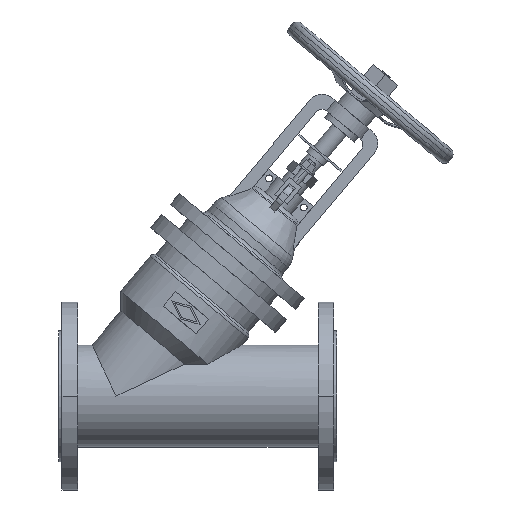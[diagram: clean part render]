
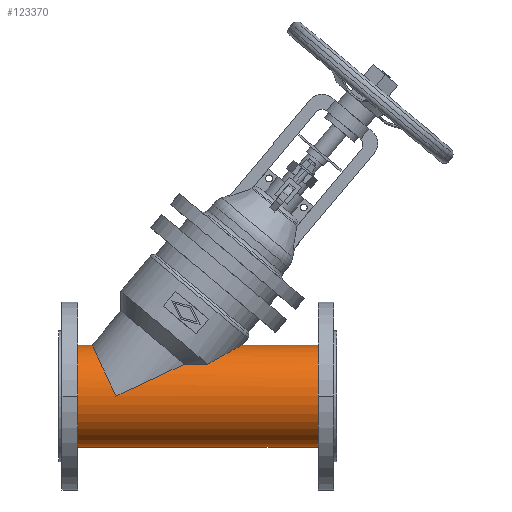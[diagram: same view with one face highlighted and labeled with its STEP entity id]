
A CAD part, top view. The second image highlights one B-rep face of the part: STEP entity #123370.
In plain terms, the highlighted cylindrical face has radius 73.5 mm (diameter 147 mm), a partial arc.
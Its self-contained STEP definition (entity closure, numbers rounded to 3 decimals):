
#2470=CARTESIAN_POINT('',(214.197,45.8,
57.485));
#2480=CARTESIAN_POINT('',(217.487,47.768,
55.918));
#2490=CARTESIAN_POINT('',(220.721,49.666,
54.24));
#2500=CARTESIAN_POINT('',(227.158,53.391,
50.585));
#2510=CARTESIAN_POINT('',(230.353,55.21,
48.596));
#2520=CARTESIAN_POINT('',(237.137,59.031,
43.915));
#2530=CARTESIAN_POINT('',(240.911,61.127,
40.991));
#2540=CARTESIAN_POINT('',(246.248,64.058,
36.089));
#2550=CARTESIAN_POINT('',(247.973,65.001,
34.369));
#2560=CARTESIAN_POINT('',(251.249,66.782,
30.764));
#2570=CARTESIAN_POINT('',(252.799,67.621,
28.88));
#2580=CARTESIAN_POINT('',(257.095,69.938,
22.993));
#2590=CARTESIAN_POINT('',(259.482,71.215,
18.755));
#2600=CARTESIAN_POINT('',(262.82,72.995,
9.749));
#2610=CARTESIAN_POINT('',(263.771,73.5,4.982));
#2620=CARTESIAN_POINT('',(263.771,73.5,-4.982));
#2630=CARTESIAN_POINT('',(262.82,72.995,
-9.749));
#2640=CARTESIAN_POINT('',(259.482,71.215,
-18.755));
#2650=CARTESIAN_POINT('',(257.095,69.938,
-22.993));
#2660=CARTESIAN_POINT('',(252.799,67.621,
-28.88));
#2670=CARTESIAN_POINT('',(251.249,66.782,
-30.764));
#2680=CARTESIAN_POINT('',(247.973,65.001,
-34.369));
#2690=CARTESIAN_POINT('',(246.248,64.058,
-36.089));
#2700=CARTESIAN_POINT('',(240.911,61.127,
-40.991));
#2710=CARTESIAN_POINT('',(237.137,59.031,
-43.915));
#2720=CARTESIAN_POINT('',(230.353,55.21,
-48.596));
#2730=CARTESIAN_POINT('',(227.158,53.391,
-50.585));
#2740=CARTESIAN_POINT('',(220.721,49.666,
-54.24));
#2750=CARTESIAN_POINT('',(217.487,47.768,
-55.918));
#2760=CARTESIAN_POINT('',(214.197,45.8,
-57.485));
#2770=B_SPLINE_CURVE_WITH_KNOTS('',3,(#2470,#2480,#2490,#2500,#2510,
#2520,#2530,#2540,#2550,#2560,#2570,#2580,#2590,#2600,#2610,#2620,#2630,
#2640,#2650,#2660,#2670,#2680,#2690,#2700,#2710,#2720,#2730,#2740,#2750,
#2760),.UNSPECIFIED.,.F.,.F.,(4,2,2,2,2,2,2,2,2,2,2,2,2,2,4),(
305.663,317.453,329.764,344.709,
352.181,359.653,374.598,389.542,
404.487,419.431,426.904,434.376,
449.32,461.632,473.421),.UNSPECIFIED.);
#2780=CARTESIAN_POINT('',(263.771,73.5,
0.));
#2790=VERTEX_POINT('',#2780);
#3160=CARTESIAN_POINT('',(47.726,73.5,
0.));
#3170=VERTEX_POINT('',#3160);
#3200=CARTESIAN_POINT('',(82.,0.,0.));
#3210=DIRECTION('',(0.906,0.423,
0.));
#3220=DIRECTION('',(-0.423,0.906,
0.));
#3230=AXIS2_PLACEMENT_3D('',#3200,#3210,#3220);
#3240=ELLIPSE('',#3230,81.098,73.5);
#5430=CARTESIAN_POINT('',(200.,0.,0.));
#5440=DIRECTION('',(1.,0.,0.));
#5450=DIRECTION('',(0.,1.,0.));
#5460=AXIS2_PLACEMENT_3D('',#5430,#5440,#5450);
#5470=CYLINDRICAL_SURFACE('',#5460,73.5);
#5480=CARTESIAN_POINT('',(200.,73.5,0.));
#5490=DIRECTION('',(1.,0.,0.));
#5500=VECTOR('',#5490,1.);
#5510=LINE('',#5480,#5500);
#5520=CARTESIAN_POINT('',(372.96,73.5,0.));
#5530=VERTEX_POINT('',#5520);
#5540=EDGE_CURVE('',#2790,#5530,#5510,.T.);
#5600=CARTESIAN_POINT('',(27.04,73.5,0.));
#5610=VERTEX_POINT('',#5600);
#5620=EDGE_CURVE('',#5610,#3170,#5510,.T.);
#5640=CARTESIAN_POINT('',(27.04,0.,0.));
#5650=DIRECTION('',(-1.,0.,0.));
#5660=DIRECTION('',(0.,1.,0.));
#5670=AXIS2_PLACEMENT_3D('',#5640,#5650,#5660);
#5680=CIRCLE('',#5670,73.5);
#5690=CARTESIAN_POINT('',(27.04,-73.5,0.));
#5700=VERTEX_POINT('',#5690);
#5730=CARTESIAN_POINT('',(200.,-73.5,0.));
#5740=DIRECTION('',(1.,0.,0.));
#5750=VECTOR('',#5740,1.);
#5760=LINE('',#5730,#5750);
#5770=CARTESIAN_POINT('',(372.96,-73.5,0.));
#5780=VERTEX_POINT('',#5770);
#5790=EDGE_CURVE('',#5700,#5780,#5760,.T.);
#5810=CARTESIAN_POINT('',(372.96,0.,0.));
#5820=DIRECTION('',(-1.,0.,0.));
#5830=DIRECTION('',(0.,1.,0.));
#5840=AXIS2_PLACEMENT_3D('',#5810,#5820,#5830);
#5850=CIRCLE('',#5840,73.5);
#16410=EDGE_CURVE('',#5700,#5610,#5680,.T.);
#22130=EDGE_CURVE('',#5780,#5530,#5850,.T.);
#120850=CARTESIAN_POINT('',(214.197,45.8,
57.485));
#120860=VERTEX_POINT('',#120850);
#120890=CARTESIAN_POINT('',(214.197,45.8,
57.485));
#120900=CARTESIAN_POINT('',(209.249,45.677,
57.584));
#120910=CARTESIAN_POINT('',(204.413,45.612,
57.635));
#120920=CARTESIAN_POINT('',(196.06,45.612,
57.635));
#120930=CARTESIAN_POINT('',(192.235,45.654,
57.602));
#120940=CARTESIAN_POINT('',(185.82,45.815,
57.474));
#120950=CARTESIAN_POINT('',(183.261,45.903,
57.404));
#120960=CARTESIAN_POINT('',(180.69,46.02,
57.31));
#120970=B_SPLINE_CURVE_WITH_KNOTS('',3,(#120890,#120900,#120910,#120920,
#120930,#120940,#120950,#120960),.UNSPECIFIED.,.F.,.F.,(4,2,2,4),(
43.89,57.742,68.948,76.27),
.UNSPECIFIED.);
#120980=CARTESIAN_POINT('',(180.69,46.02,
57.31));
#120990=VERTEX_POINT('',#120980);
#121000=EDGE_CURVE('',#120860,#120990,#120970,.T.);
#123160=ORIENTED_EDGE('',*,*,#5620,.F.);
#123170=CARTESIAN_POINT('',(82.,0.,73.5));
#123180=VERTEX_POINT('',#123170);
#123190=EDGE_CURVE('',#3170,#123180,#3240,.T.);
#123200=ORIENTED_EDGE('',*,*,#123190,.F.);
#123210=CARTESIAN_POINT('',(82.,0.,0.));
#123220=DIRECTION('',(-0.423,0.906,
0.));
#123230=DIRECTION('',(0.906,0.423,
0.));
#123240=AXIS2_PLACEMENT_3D('',#123210,#123220,#123230);
#123250=ELLIPSE('',#123240,173.916,73.5);
#123260=EDGE_CURVE('',#123180,#120990,#123250,.T.);
#123270=ORIENTED_EDGE('',*,*,#123260,.F.);
#123280=ORIENTED_EDGE('',*,*,#121000,.T.);
#123290=EDGE_CURVE('',#120860,#2790,#2770,.T.);
#123300=ORIENTED_EDGE('',*,*,#123290,.F.);
#123310=ORIENTED_EDGE('',*,*,#5540,.F.);
#123320=ORIENTED_EDGE('',*,*,#22130,.T.);
#123330=ORIENTED_EDGE('',*,*,#5790,.T.);
#123340=ORIENTED_EDGE('',*,*,#16410,.F.);
#123350=EDGE_LOOP('',(#123340,#123330,#123320,#123310,#123300,#123280,
#123270,#123200,#123160));
#123360=FACE_OUTER_BOUND('',#123350,.T.);
#123370=ADVANCED_FACE('',(#123360),#5470,.T.);
